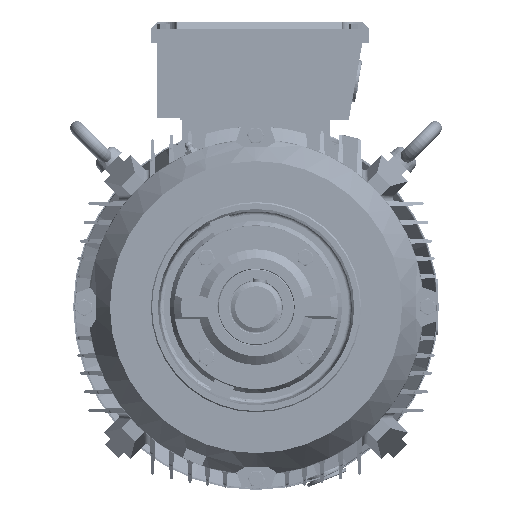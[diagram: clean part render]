
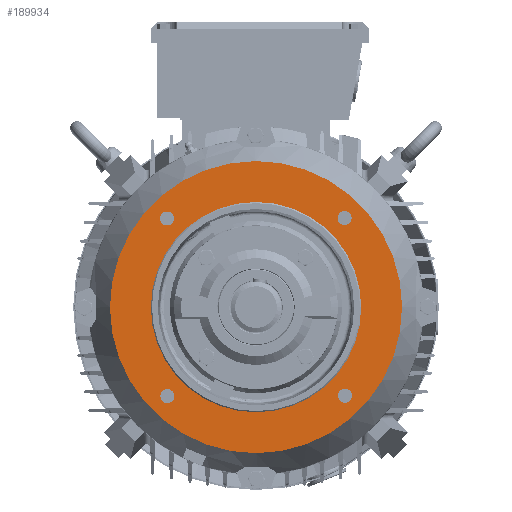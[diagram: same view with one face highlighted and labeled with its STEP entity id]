
A CAD part, left-side view. The second image highlights one B-rep face of the part: STEP entity #189934.
In plain terms, the highlighted planar face has unit normal (-1, 0, 0).
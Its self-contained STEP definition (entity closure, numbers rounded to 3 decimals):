
#316 = CARTESIAN_POINT ( 'NONE',  ( -130.343, -53.333, -78.18 ) ) ;
#11624 = EDGE_CURVE ( 'NONE', #12184, #106113, #175253, .T. ) ;
#12184 = VERTEX_POINT ( 'NONE', #52345 ) ;
#16059 = EDGE_LOOP ( 'NONE', ( #243837, #217090 ) ) ;
#16952 = CARTESIAN_POINT ( 'NONE',  ( -130.343, -102.136, -2.049 ) ) ;
#18102 = CIRCLE ( 'NONE', #166609, 6. ) ;
#18608 = AXIS2_PLACEMENT_3D ( 'NONE', #175372, #158072, #160679 ) ;
#20237 = VERTEX_POINT ( 'NONE', #76019 ) ;
#27784 = ORIENTED_EDGE ( 'NONE', *, *, #138427, .F. ) ;
#29010 = CIRCLE ( 'NONE', #207385, 90. ) ;
#30020 = VERTEX_POINT ( 'NONE', #118673 ) ;
#30357 = DIRECTION ( 'NONE',  ( -1., 0., 0. ) ) ;
#32223 = EDGE_LOOP ( 'NONE', ( #146081, #253625 ) ) ;
#32500 = VERTEX_POINT ( 'NONE', #226103 ) ;
#35472 = CIRCLE ( 'NONE', #18608, 6. ) ;
#36663 = DIRECTION ( 'NONE',  ( 0., 1., -0.002 ) ) ;
#36995 = DIRECTION ( 'NONE',  ( -1., 0., 0. ) ) ;
#45080 = AXIS2_PLACEMENT_3D ( 'NONE', #205146, #242478, #223781 ) ;
#45388 = AXIS2_PLACEMENT_3D ( 'NONE', #57092, #138142, #140776 ) ;
#52345 = CARTESIAN_POINT ( 'NONE',  ( -130.343, -58.967, 73.862 ) ) ;
#53657 = CIRCLE ( 'NONE', #45080, 6. ) ;
#57092 = CARTESIAN_POINT ( 'NONE',  ( -130.343, 22.864, -2.35 ) ) ;
#57951 = CARTESIAN_POINT ( 'NONE',  ( -130.343, -53.333, -78.18 ) ) ;
#58812 = CARTESIAN_POINT ( 'NONE',  ( -130.343, 104.694, -78.561 ) ) ;
#60450 = CIRCLE ( 'NONE', #77313, 6. ) ;
#61518 = EDGE_CURVE ( 'NONE', #199046, #157750, #35472, .T. ) ;
#61836 = ORIENTED_EDGE ( 'NONE', *, *, #112384, .F. ) ;
#65889 = DIRECTION ( 'NONE',  ( 0., 1., -0.002 ) ) ;
#66336 = EDGE_LOOP ( 'NONE', ( #61836, #201041 ) ) ;
#68509 = CARTESIAN_POINT ( 'NONE',  ( -130.343, 99.06, 73.481 ) ) ;
#69353 = CARTESIAN_POINT ( 'NONE',  ( -130.343, 23.08, 87.65 ) ) ;
#69827 = EDGE_CURVE ( 'NONE', #32500, #192610, #109642, .T. ) ;
#71118 = DIRECTION ( 'NONE',  ( -1., 0., 0. ) ) ;
#76019 = CARTESIAN_POINT ( 'NONE',  ( -130.343, -59.333, -78.166 ) ) ;
#77313 = AXIS2_PLACEMENT_3D ( 'NONE', #316, #142564, #91908 ) ;
#91908 = DIRECTION ( 'NONE',  ( 0., 1., -0.002 ) ) ;
#96347 = DIRECTION ( 'NONE',  ( 0., 1., -0.002 ) ) ;
#98381 = AXIS2_PLACEMENT_3D ( 'NONE', #68509, #71118, #65889 ) ;
#99786 = CIRCLE ( 'NONE', #201691, 90. ) ;
#101696 = CARTESIAN_POINT ( 'NONE',  ( -130.343, -67.136, -2.133 ) ) ;
#103376 = CARTESIAN_POINT ( 'NONE',  ( -130.343, -52.967, 73.847 ) ) ;
#105582 = CIRCLE ( 'NONE', #233144, 6. ) ;
#106113 = VERTEX_POINT ( 'NONE', #176691 ) ;
#108817 = CARTESIAN_POINT ( 'NONE',  ( -130.343, -52.967, 73.847 ) ) ;
#109178 = FACE_BOUND ( 'NONE', #66336, .T. ) ;
#109642 = CIRCLE ( 'NONE', #241370, 125. ) ;
#111200 = VERTEX_POINT ( 'NONE', #169668 ) ;
#112384 = EDGE_CURVE ( 'NONE', #106113, #12184, #173748, .T. ) ;
#114421 = CARTESIAN_POINT ( 'NONE',  ( -130.343, 93.06, 73.495 ) ) ;
#115079 = CARTESIAN_POINT ( 'NONE',  ( -130.343, 22.864, -2.35 ) ) ;
#118673 = CARTESIAN_POINT ( 'NONE',  ( -130.343, 112.863, -2.567 ) ) ;
#118902 = AXIS2_PLACEMENT_3D ( 'NONE', #69353, #224916, #145128 ) ;
#127806 = FACE_OUTER_BOUND ( 'NONE', #16059, .T. ) ;
#128681 = VERTEX_POINT ( 'NONE', #195337 ) ;
#130402 = EDGE_CURVE ( 'NONE', #157750, #199046, #105582, .T. ) ;
#135333 = CARTESIAN_POINT ( 'NONE',  ( -130.343, 22.864, -2.35 ) ) ;
#138142 = DIRECTION ( 'NONE',  ( -1., 0., 0. ) ) ;
#138427 = EDGE_CURVE ( 'NONE', #177883, #128681, #53657, .T. ) ;
#139004 = DIRECTION ( 'NONE',  ( -1., 0., 0. ) ) ;
#140776 = DIRECTION ( 'NONE',  ( 0., -1., 0.002 ) ) ;
#141974 = EDGE_CURVE ( 'NONE', #20237, #111200, #60450, .T. ) ;
#142564 = DIRECTION ( 'NONE',  ( -1., 0., 0. ) ) ;
#145128 = DIRECTION ( 'NONE',  ( 0., 0.002, 1. ) ) ;
#146081 = ORIENTED_EDGE ( 'NONE', *, *, #161609, .F. ) ;
#148526 = DIRECTION ( 'NONE',  ( 0., 1., -0.002 ) ) ;
#149882 = AXIS2_PLACEMENT_3D ( 'NONE', #108817, #30357, #215075 ) ;
#151219 = ORIENTED_EDGE ( 'NONE', *, *, #259863, .F. ) ;
#152376 = DIRECTION ( 'NONE',  ( 0., -1., 0.002 ) ) ;
#157750 = VERTEX_POINT ( 'NONE', #175802 ) ;
#158072 = DIRECTION ( 'NONE',  ( -1., 0., 0. ) ) ;
#160679 = DIRECTION ( 'NONE',  ( 0., 1., -0.002 ) ) ;
#161609 = EDGE_CURVE ( 'NONE', #111200, #20237, #18102, .T. ) ;
#165471 = EDGE_LOOP ( 'NONE', ( #151219, #27784 ) ) ;
#165585 = ORIENTED_EDGE ( 'NONE', *, *, #181278, .F. ) ;
#166609 = AXIS2_PLACEMENT_3D ( 'NONE', #57951, #139004, #36663 ) ;
#169668 = CARTESIAN_POINT ( 'NONE',  ( -130.343, -47.333, -78.195 ) ) ;
#173748 = CIRCLE ( 'NONE', #229026, 6. ) ;
#175253 = CIRCLE ( 'NONE', #149882, 6. ) ;
#175372 = CARTESIAN_POINT ( 'NONE',  ( -130.343, 98.694, -78.547 ) ) ;
#175802 = CARTESIAN_POINT ( 'NONE',  ( -130.343, 92.694, -78.532 ) ) ;
#176691 = CARTESIAN_POINT ( 'NONE',  ( -130.343, -46.967, 73.833 ) ) ;
#177807 = DIRECTION ( 'NONE',  ( 0., -1., 0.002 ) ) ;
#177883 = VERTEX_POINT ( 'NONE', #114421 ) ;
#178684 = ORIENTED_EDGE ( 'NONE', *, *, #208791, .F. ) ;
#179466 = EDGE_LOOP ( 'NONE', ( #256363, #203852 ) ) ;
#181278 = EDGE_CURVE ( 'NONE', #30020, #232061, #99786, .T. ) ;
#189934 = ADVANCED_FACE ( 'NONE', ( #127806, #230173, #210228, #208901, #109178, #190242 ), #251457, .F. ) ;
#190242 = FACE_BOUND ( 'NONE', #258063, .T. ) ;
#192199 = DIRECTION ( 'NONE',  ( -1., 0., 0. ) ) ;
#192610 = VERTEX_POINT ( 'NONE', #16952 ) ;
#193774 = DIRECTION ( 'NONE',  ( 0., -1., 0.002 ) ) ;
#195337 = CARTESIAN_POINT ( 'NONE',  ( -130.343, 105.06, 73.466 ) ) ;
#196000 = EDGE_CURVE ( 'NONE', #192610, #32500, #232310, .T. ) ;
#199046 = VERTEX_POINT ( 'NONE', #58812 ) ;
#201041 = ORIENTED_EDGE ( 'NONE', *, *, #11624, .F. ) ;
#201691 = AXIS2_PLACEMENT_3D ( 'NONE', #135333, #216437, #177807 ) ;
#203852 = ORIENTED_EDGE ( 'NONE', *, *, #130402, .F. ) ;
#205146 = CARTESIAN_POINT ( 'NONE',  ( -130.343, 99.06, 73.481 ) ) ;
#207385 = AXIS2_PLACEMENT_3D ( 'NONE', #255030, #253709, #193774 ) ;
#208791 = EDGE_CURVE ( 'NONE', #232061, #30020, #29010, .T. ) ;
#208901 = FACE_BOUND ( 'NONE', #165471, .T. ) ;
#210228 = FACE_BOUND ( 'NONE', #179466, .T. ) ;
#213011 = CIRCLE ( 'NONE', #98381, 6. ) ;
#215075 = DIRECTION ( 'NONE',  ( 0., 1., -0.002 ) ) ;
#216437 = DIRECTION ( 'NONE',  ( -1., 0., 0. ) ) ;
#217090 = ORIENTED_EDGE ( 'NONE', *, *, #69827, .T. ) ;
#218666 = DIRECTION ( 'NONE',  ( -1., 0., 0. ) ) ;
#223781 = DIRECTION ( 'NONE',  ( 0., 1., -0.002 ) ) ;
#224916 = DIRECTION ( 'NONE',  ( 1., 0., 0. ) ) ;
#226103 = CARTESIAN_POINT ( 'NONE',  ( -130.343, 147.863, -2.651 ) ) ;
#229026 = AXIS2_PLACEMENT_3D ( 'NONE', #103376, #36995, #148526 ) ;
#230173 = FACE_BOUND ( 'NONE', #32223, .T. ) ;
#232061 = VERTEX_POINT ( 'NONE', #101696 ) ;
#232310 = CIRCLE ( 'NONE', #45388, 125. ) ;
#233144 = AXIS2_PLACEMENT_3D ( 'NONE', #239944, #218666, #96347 ) ;
#239944 = CARTESIAN_POINT ( 'NONE',  ( -130.343, 98.694, -78.547 ) ) ;
#241370 = AXIS2_PLACEMENT_3D ( 'NONE', #115079, #192199, #152376 ) ;
#242478 = DIRECTION ( 'NONE',  ( -1., 0., 0. ) ) ;
#243837 = ORIENTED_EDGE ( 'NONE', *, *, #196000, .T. ) ;
#251457 = PLANE ( 'NONE',  #118902 ) ;
#253625 = ORIENTED_EDGE ( 'NONE', *, *, #141974, .F. ) ;
#253709 = DIRECTION ( 'NONE',  ( -1., 0., 0. ) ) ;
#255030 = CARTESIAN_POINT ( 'NONE',  ( -130.343, 22.864, -2.35 ) ) ;
#256363 = ORIENTED_EDGE ( 'NONE', *, *, #61518, .F. ) ;
#258063 = EDGE_LOOP ( 'NONE', ( #178684, #165585 ) ) ;
#259863 = EDGE_CURVE ( 'NONE', #128681, #177883, #213011, .T. ) ;
